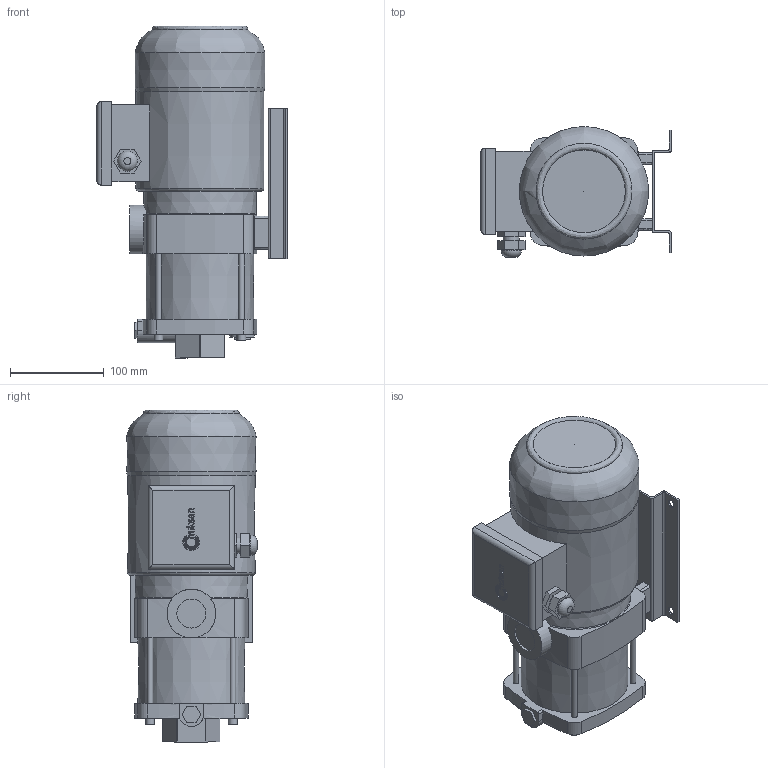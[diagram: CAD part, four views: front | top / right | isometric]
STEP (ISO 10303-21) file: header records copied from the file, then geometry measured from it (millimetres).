
FILE_DESCRIPTION(/* description */ ('Unknown'),/* implementation_level */ '2;1');
FILE_NAME(/* name */ 'hd02',/* time_stamp */ '2025-06-17T14:55:32+03:00',/* author */ ('Unknown'),/* organization */ ('Unknown'),/* preprocessor_version */ 'ST-DEVELOPER v16.7',/* originating_system */ 'DEX',/* authorisation */ $);
FILE_SCHEMA (('AUTOMOTIVE_DESIGN {1 0 10303 214 3 1 1}'));
Length unit declared in the file: millimetre
Products named in the file (1): hd02
Bounding box: 203 x 139.29 x 354.08 mm (x, y, z)
Volume: 4825475.2 mm3; surface area: 261983.7 mm2
Topology: 1 solids, 1 shells, 254 faces, 664 edges, 441 vertices
Faces by surface type: plane 105, bspline 71, cylinder 63, cone 12, torus 3
Full cylindrical faces by diameter (mm): 6 x4, 9 x4, 9.5 x4, 17 x1, 21.5 x1, 26 x1, 31 x1, 39.268 x1, 52 x1
Entity records: 11102 total; most frequent: CARTESIAN_POINT 5356, ORIENTED_EDGE 1246, DIRECTION 977, EDGE_CURVE 623, VERTEX_POINT 430, AXIS2_PLACEMENT_3D 334, FACE_BOUND 331, EDGE_LOOP 330
